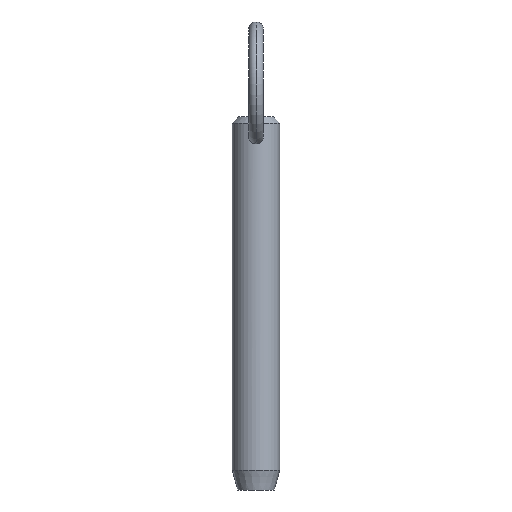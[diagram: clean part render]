
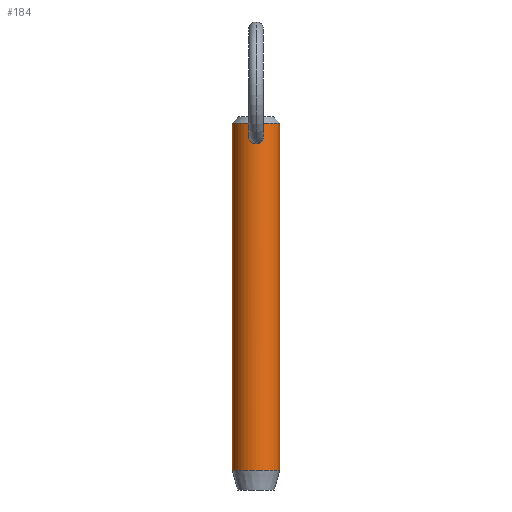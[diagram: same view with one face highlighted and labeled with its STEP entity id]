
A CAD part, front view. The second image highlights one B-rep face of the part: STEP entity #184.
In plain terms, the highlighted cylindrical face has radius 4.76 mm (diameter 9.52 mm), a partial arc.
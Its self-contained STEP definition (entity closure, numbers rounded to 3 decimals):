
#9 = AXIS2_PLACEMENT_3D ( 'NONE', #414, #492, #484 ) ;
#11 = DIRECTION ( 'NONE',  ( 1., 0., 0. ) ) ;
#22 = CARTESIAN_POINT ( 'NONE',  ( 0., -4.76, 60.148 ) ) ;
#24 = CARTESIAN_POINT ( 'NONE',  ( 0.687, -4.711, 59.935 ) ) ;
#42 = CARTESIAN_POINT ( 'NONE',  ( 0., 0., 55.9 ) ) ;
#49 = CARTESIAN_POINT ( 'NONE',  ( 0.512, -4.733, 56.908 ) ) ;
#50 = VERTEX_POINT ( 'NONE', #116 ) ;
#51 = VERTEX_POINT ( 'NONE', #318 ) ;
#60 = CARTESIAN_POINT ( 'NONE',  ( 0.104, -4.76, 60.148 ) ) ;
#63 = VECTOR ( 'NONE', #261, 1000. ) ;
#71 = CARTESIAN_POINT ( 'NONE',  ( -0.409, -4.743, 60.078 ) ) ;
#75 = CARTESIAN_POINT ( 'NONE',  ( -1.292, -4.582, 59.245 ) ) ;
#86 = EDGE_CURVE ( 'NONE', #51, #455, #502, .T. ) ;
#101 = CIRCLE ( 'NONE', #338, 4.76 ) ;
#105 = CARTESIAN_POINT ( 'NONE',  ( 1.434, -4.539, 58.854 ) ) ;
#108 = VERTEX_POINT ( 'NONE', #234 ) ;
#110 = CARTESIAN_POINT ( 'NONE',  ( 0., -4.76, 56.826 ) ) ;
#113 = CARTESIAN_POINT ( 'NONE',  ( -0.703, -4.709, 56.989 ) ) ;
#115 = ORIENTED_EDGE ( 'NONE', *, *, #393, .T. ) ;
#116 = CARTESIAN_POINT ( 'NONE',  ( -4.76, 0., 60.95 ) ) ;
#119 = CARTESIAN_POINT ( 'NONE',  ( 1.385, -4.554, 57.732 ) ) ;
#122 = CARTESIAN_POINT ( 'NONE',  ( 1.24, -4.596, 57.46 ) ) ;
#127 = CARTESIAN_POINT ( 'NONE',  ( 1.473, -4.526, 58.031 ) ) ;
#137 = EDGE_LOOP ( 'NONE', ( #230, #289, #438, #432 ) ) ;
#138 = CARTESIAN_POINT ( 'NONE',  ( 0.997, -4.655, 59.664 ) ) ;
#140 = CARTESIAN_POINT ( 'NONE',  ( 1.492, -4.52, 58.548 ) ) ;
#150 = CARTESIAN_POINT ( 'NONE',  ( -1.039, -4.646, 57.226 ) ) ;
#151 = CARTESIAN_POINT ( 'NONE',  ( 0., -4.76, 60.148 ) ) ;
#152 = CARTESIAN_POINT ( 'NONE',  ( -1.483, -4.524, 58.026 ) ) ;
#154 = CARTESIAN_POINT ( 'NONE',  ( -0.777, -4.7, 59.885 ) ) ;
#156 = EDGE_CURVE ( 'NONE', #108, #420, #365, .T. ) ;
#163 = DIRECTION ( 'NONE',  ( 0., 0., -1. ) ) ;
#164 = CARTESIAN_POINT ( 'NONE',  ( 0.208, -4.757, 56.836 ) ) ;
#166 = CARTESIAN_POINT ( 'NONE',  ( 0.797, -4.697, 57.029 ) ) ;
#169 = CYLINDRICAL_SURFACE ( 'NONE', #361, 4.76 ) ;
#173 = DIRECTION ( 'NONE',  ( 0., 0., -1. ) ) ;
#180 = CARTESIAN_POINT ( 'NONE',  ( 1.19, -4.611, 59.424 ) ) ;
#183 = CARTESIAN_POINT ( 'NONE',  ( 1.503, -4.517, 58.34 ) ) ;
#184 = ADVANCED_FACE ( 'NONE', ( #512, #262 ), #169, .T. ) ;
#194 = CARTESIAN_POINT ( 'NONE',  ( -0.208, -4.757, 60.134 ) ) ;
#195 = CARTESIAN_POINT ( 'NONE',  ( -0.961, -4.663, 57.157 ) ) ;
#202 = CARTESIAN_POINT ( 'NONE',  ( 1.499, -4.518, 58.237 ) ) ;
#205 = CARTESIAN_POINT ( 'NONE',  ( 4.76, 0., 55.9 ) ) ;
#212 = CARTESIAN_POINT ( 'NONE',  ( 0.411, -4.743, 56.877 ) ) ;
#230 = ORIENTED_EDGE ( 'NONE', *, *, #468, .F. ) ;
#232 = CARTESIAN_POINT ( 'NONE',  ( -1.508, -4.515, 58.237 ) ) ;
#234 = CARTESIAN_POINT ( 'NONE',  ( -4.76, 0., -8.7 ) ) ;
#236 = VERTEX_POINT ( 'NONE', #448 ) ;
#244 = DIRECTION ( 'NONE',  ( 0., 0., -1. ) ) ;
#245 = CARTESIAN_POINT ( 'NONE',  ( 1.344, -4.567, 57.639 ) ) ;
#252 = ORIENTED_EDGE ( 'NONE', *, *, #86, .T. ) ;
#261 = DIRECTION ( 'NONE',  ( 0., 0., -1. ) ) ;
#262 = FACE_BOUND ( 'NONE', #343, .T. ) ;
#263 = CARTESIAN_POINT ( 'NONE',  ( 1.293, -4.582, 59.242 ) ) ;
#270 = CARTESIAN_POINT ( 'NONE',  ( -1.19, -4.611, 59.424 ) ) ;
#275 = CARTESIAN_POINT ( 'NONE',  ( -1.247, -4.596, 57.452 ) ) ;
#284 = CARTESIAN_POINT ( 'NONE',  ( 0., -4.76, 60.148 ) ) ;
#285 = CARTESIAN_POINT ( 'NONE',  ( 0.105, -4.76, 56.826 ) ) ;
#289 = ORIENTED_EDGE ( 'NONE', *, *, #477, .T. ) ;
#291 = CARTESIAN_POINT ( 'NONE',  ( 1.45, -4.534, 57.928 ) ) ;
#298 = CARTESIAN_POINT ( 'NONE',  ( 0., 0., 60.95 ) ) ;
#301 = CARTESIAN_POINT ( 'NONE',  ( 0.209, -4.756, 60.134 ) ) ;
#306 = CARTESIAN_POINT ( 'NONE',  ( 0.77, -4.698, 59.875 ) ) ;
#318 = CARTESIAN_POINT ( 'NONE',  ( 0., -4.76, 56.826 ) ) ;
#338 = AXIS2_PLACEMENT_3D ( 'NONE', #298, #173, #11 ) ;
#342 = CARTESIAN_POINT ( 'NONE',  ( 1.404, -4.548, 58.953 ) ) ;
#343 = EDGE_LOOP ( 'NONE', ( #115, #252 ) ) ;
#359 = CARTESIAN_POINT ( 'NONE',  ( -0.793, -4.694, 57.039 ) ) ;
#361 = AXIS2_PLACEMENT_3D ( 'NONE', #42, #163, #450 ) ;
#365 = CIRCLE ( 'NONE', #9, 4.76 ) ;
#372 = CARTESIAN_POINT ( 'NONE',  ( 0., -4.76, 56.826 ) ) ;
#382 = CARTESIAN_POINT ( 'NONE',  ( -4.76, 0., 55.9 ) ) ;
#390 = CARTESIAN_POINT ( 'NONE',  ( 1.478, -4.525, 58.652 ) ) ;
#391 = LINE ( 'NONE', #382, #63 ) ;
#393 = EDGE_CURVE ( 'NONE', #455, #51, #407, .T. ) ;
#399 = CARTESIAN_POINT ( 'NONE',  ( -0.21, -4.76, 56.826 ) ) ;
#401 = CARTESIAN_POINT ( 'NONE',  ( -0.103, -4.76, 60.148 ) ) ;
#405 = CARTESIAN_POINT ( 'NONE',  ( -1.353, -4.564, 57.635 ) ) ;
#406 = CARTESIAN_POINT ( 'NONE',  ( -0.932, -4.67, 59.745 ) ) ;
#407 = B_SPLINE_CURVE_WITH_KNOTS ( 'NONE', 3,
 ( #22, #60, #301, #511, #430, #24, #306, #433, #138, #180, #263, #342, #105, #390, #140, #183, #202, #127, #291, #119, #245, #122, #416, #488, #166, #49, #212, #164, #285, #372 ),
 .UNSPECIFIED., .F., .F.,
 ( 4, 2, 2, 2, 2, 2, 2, 2, 2, 2, 2, 2, 2, 2, 4 ),
 ( 0.004, 0.005, 0.005, 0.005, 0.006, 0.006, 0.007, 0.007, 0.007, 0.007, 0.008, 0.008, 0.009, 0.009, 0.009 ),
 .UNSPECIFIED. ) ;
#414 = CARTESIAN_POINT ( 'NONE',  ( 0., 0., -8.7 ) ) ;
#416 = CARTESIAN_POINT ( 'NONE',  ( 1.178, -4.613, 57.376 ) ) ;
#420 = VERTEX_POINT ( 'NONE', #446 ) ;
#430 = CARTESIAN_POINT ( 'NONE',  ( 0.506, -4.734, 60.037 ) ) ;
#432 = ORIENTED_EDGE ( 'NONE', *, *, #156, .T. ) ;
#433 = CARTESIAN_POINT ( 'NONE',  ( 0.925, -4.67, 59.739 ) ) ;
#438 = ORIENTED_EDGE ( 'NONE', *, *, #486, .T. ) ;
#439 = CARTESIAN_POINT ( 'NONE',  ( -0.504, -4.734, 60.038 ) ) ;
#442 = CARTESIAN_POINT ( 'NONE',  ( -0.416, -4.746, 56.867 ) ) ;
#446 = CARTESIAN_POINT ( 'NONE',  ( 4.76, 0., -8.7 ) ) ;
#448 = CARTESIAN_POINT ( 'NONE',  ( 4.76, 0., 60.95 ) ) ;
#450 = DIRECTION ( 'NONE',  ( -1., 0., 0. ) ) ;
#455 = VERTEX_POINT ( 'NONE', #284 ) ;
#468 = EDGE_CURVE ( 'NONE', #236, #420, #505, .T. ) ;
#477 = EDGE_CURVE ( 'NONE', #236, #50, #101, .T. ) ;
#479 = VECTOR ( 'NONE', #244, 1000. ) ;
#482 = CARTESIAN_POINT ( 'NONE',  ( -1.441, -4.537, 58.857 ) ) ;
#484 = DIRECTION ( 'NONE',  ( -1., 0., 0. ) ) ;
#486 = EDGE_CURVE ( 'NONE', #50, #108, #391, .T. ) ;
#488 = CARTESIAN_POINT ( 'NONE',  ( 0.97, -4.662, 57.15 ) ) ;
#492 = DIRECTION ( 'NONE',  ( 0., 0., 1. ) ) ;
#502 = B_SPLINE_CURVE_WITH_KNOTS ( 'NONE', 3,
 ( #110, #399, #442, #113, #359, #195, #150, #275, #405, #152, #232, #520, #482, #75, #270, #406, #154, #439, #71, #194, #401, #151 ),
 .UNSPECIFIED., .F., .F.,
 ( 4, 2, 2, 2, 2, 2, 2, 2, 2, 2, 4 ),
 ( 0.009, 0.01, 0.01, 0.011, 0.011, 0.012, 0.012, 0.013, 0.014, 0.014, 0.014 ),
 .UNSPECIFIED. ) ;
#505 = LINE ( 'NONE', #205, #479 ) ;
#511 = CARTESIAN_POINT ( 'NONE',  ( 0.409, -4.743, 60.078 ) ) ;
#512 = FACE_OUTER_BOUND ( 'NONE', #137, .T. ) ;
#520 = CARTESIAN_POINT ( 'NONE',  ( -1.487, -4.522, 58.653 ) ) ;
